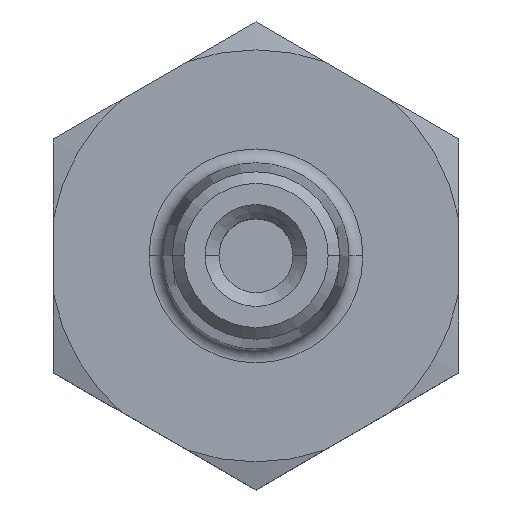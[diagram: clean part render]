
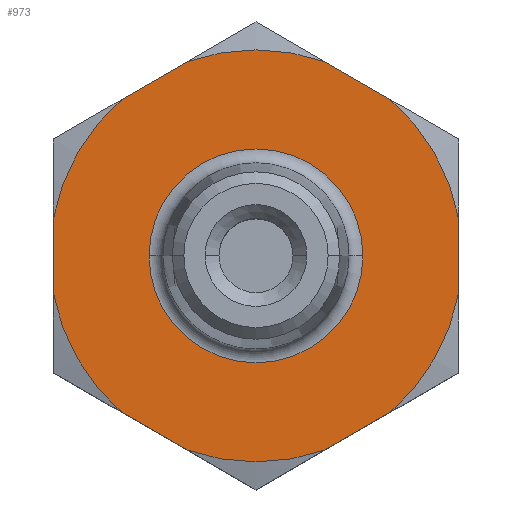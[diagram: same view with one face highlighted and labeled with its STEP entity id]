
A CAD part, top view. The second image highlights one B-rep face of the part: STEP entity #973.
In plain terms, the highlighted planar face has unit normal (0, 0, 1).
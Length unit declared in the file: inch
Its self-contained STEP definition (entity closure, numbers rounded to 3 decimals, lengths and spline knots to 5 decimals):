
#787 = CARTESIAN_POINT ( 'NONE',  ( -0.14829, 0.41956, 0. ) ) ;
#788 = DIRECTION ( 'NONE',  ( -1., 0., 0. ) ) ;
#789 = DIRECTION ( 'NONE',  ( 0., 0., -1. ) ) ;
#790 = CARTESIAN_POINT ( 'NONE',  ( 0., 0., 0. ) ) ;
#791 = AXIS2_PLACEMENT_3D ( 'NONE', #790, #789, #788 ) ;
#792 = CIRCLE ( 'NONE', #791, 0.445 ) ;
#793 = DIRECTION ( 'NONE',  ( -0.866, 0.5, 0. ) ) ;
#794 = VECTOR ( 'NONE', #793, 39.37008 ) ;
#795 = CARTESIAN_POINT ( 'NONE',  ( 0.4375, 0.25259, 0. ) ) ;
#796 = LINE ( 'NONE', #795, #794 ) ;
#801 = CARTESIAN_POINT ( 'NONE',  ( 0.14829, -0.41956, 0. ) ) ;
#802 = CARTESIAN_POINT ( 'NONE',  ( -0.14829, -0.41956, 0. ) ) ;
#803 = DIRECTION ( 'NONE',  ( 0.866, -0.5, 0. ) ) ;
#804 = VECTOR ( 'NONE', #803, 39.37008 ) ;
#805 = CARTESIAN_POINT ( 'NONE',  ( -0.4375, -0.25259, 0. ) ) ;
#806 = LINE ( 'NONE', #805, #804 ) ;
#807 = CARTESIAN_POINT ( 'NONE',  ( -0.28921, -0.33821, 0. ) ) ;
#808 = DIRECTION ( 'NONE',  ( -1., 0., 0. ) ) ;
#809 = DIRECTION ( 'NONE',  ( 0., 0., -1. ) ) ;
#810 = CARTESIAN_POINT ( 'NONE',  ( 0., 0., 0. ) ) ;
#811 = AXIS2_PLACEMENT_3D ( 'NONE', #810, #809, #808 ) ;
#812 = CIRCLE ( 'NONE', #811, 0.445 ) ;
#813 = CARTESIAN_POINT ( 'NONE',  ( -0.4375, -0.08136, 0. ) ) ;
#814 = DIRECTION ( 'NONE',  ( 0., -1., 0. ) ) ;
#815 = VECTOR ( 'NONE', #814, 39.37008 ) ;
#816 = CARTESIAN_POINT ( 'NONE',  ( -0.4375, 0.25259, 0. ) ) ;
#817 = LINE ( 'NONE', #816, #815 ) ;
#818 = CARTESIAN_POINT ( 'NONE',  ( -0.28921, 0.33821, 0. ) ) ;
#819 = DIRECTION ( 'NONE',  ( -1., 0., 0. ) ) ;
#820 = DIRECTION ( 'NONE',  ( 0., 0., -1. ) ) ;
#821 = CARTESIAN_POINT ( 'NONE',  ( 0., 0., 0. ) ) ;
#822 = AXIS2_PLACEMENT_3D ( 'NONE', #821, #820, #819 ) ;
#823 = CIRCLE ( 'NONE', #822, 0.445 ) ;
#824 = CARTESIAN_POINT ( 'NONE',  ( -0.4375, 0.08136, 0. ) ) ;
#829 = CARTESIAN_POINT ( 'NONE',  ( 0., 0., 0. ) ) ;
#831 = CARTESIAN_POINT ( 'NONE',  ( -0.23097, 0., 0. ) ) ;
#832 = CARTESIAN_POINT ( 'NONE',  ( 0.23097, 0., 0. ) ) ;
#833 = DIRECTION ( 'NONE',  ( -1., 0., 0. ) ) ;
#834 = DIRECTION ( 'NONE',  ( 0., 0., -1. ) ) ;
#835 = AXIS2_PLACEMENT_3D ( 'NONE', #829, #834, #833 ) ;
#836 = CIRCLE ( 'NONE', #835, 0.23097 ) ;
#837 = CARTESIAN_POINT ( 'NONE',  ( 0.14829, 0.41956, 0. ) ) ;
#838 = DIRECTION ( 'NONE',  ( 1., 0., 0. ) ) ;
#839 = DIRECTION ( 'NONE',  ( 0., 0., 1. ) ) ;
#840 = CARTESIAN_POINT ( 'NONE',  ( 0., 0., 0. ) ) ;
#841 = AXIS2_PLACEMENT_3D ( 'NONE', #840, #839, #838 ) ;
#842 = CIRCLE ( 'NONE', #841, 0.445 ) ;
#843 = CARTESIAN_POINT ( 'NONE',  ( 0.28921, 0.33821, 0. ) ) ;
#848 = CARTESIAN_POINT ( 'NONE',  ( 0.4375, 0.08136, 0. ) ) ;
#973 = ADVANCED_FACE ( 'NONE', ( #1814, #1813 ), #1811, .F. ) ;
#974 = ORIENTED_EDGE ( 'NONE', *, *, #975, .T. ) ;
#975 = EDGE_CURVE ( 'NONE', #1146, #1145, #1812, .T. ) ;
#976 = ORIENTED_EDGE ( 'NONE', *, *, #1144, .T. ) ;
#977 = EDGE_LOOP ( 'NONE', ( #1188, #1192, #1195, #1198, #1201, #979, #982, #985, #1183, #1186, #1204, #1207 ) ) ;
#978 = EDGE_CURVE ( 'NONE', #1202, #1200, #1875, .T. ) ;
#979 = ORIENTED_EDGE ( 'NONE', *, *, #980, .T. ) ;
#980 = EDGE_CURVE ( 'NONE', #1202, #981, #1870, .T. ) ;
#981 = VERTEX_POINT ( 'NONE', #1866 ) ;
#982 = ORIENTED_EDGE ( 'NONE', *, *, #983, .F. ) ;
#983 = EDGE_CURVE ( 'NONE', #984, #981, #1862, .T. ) ;
#984 = VERTEX_POINT ( 'NONE', #1857 ) ;
#985 = ORIENTED_EDGE ( 'NONE', *, *, #986, .T. ) ;
#986 = EDGE_CURVE ( 'NONE', #984, #1182, #1856, .T. ) ;
#1114 = EDGE_CURVE ( 'NONE', #1206, #1191, #2112, .T. ) ;
#1122 = EDGE_LOOP ( 'NONE', ( #974, #976 ) ) ;
#1144 = EDGE_CURVE ( 'NONE', #1145, #1146, #836, .T. ) ;
#1145 = VERTEX_POINT ( 'NONE', #832 ) ;
#1146 = VERTEX_POINT ( 'NONE', #831 ) ;
#1182 = VERTEX_POINT ( 'NONE', #848 ) ;
#1183 = ORIENTED_EDGE ( 'NONE', *, *, #1184, .T. ) ;
#1184 = EDGE_CURVE ( 'NONE', #1182, #1185, #842, .T. ) ;
#1185 = VERTEX_POINT ( 'NONE', #843 ) ;
#1186 = ORIENTED_EDGE ( 'NONE', *, *, #1203, .T. ) ;
#1187 = VERTEX_POINT ( 'NONE', #837 ) ;
#1188 = ORIENTED_EDGE ( 'NONE', *, *, #1189, .F. ) ;
#1189 = EDGE_CURVE ( 'NONE', #1190, #1191, #823, .T. ) ;
#1190 = VERTEX_POINT ( 'NONE', #824 ) ;
#1191 = VERTEX_POINT ( 'NONE', #818 ) ;
#1192 = ORIENTED_EDGE ( 'NONE', *, *, #1193, .T. ) ;
#1193 = EDGE_CURVE ( 'NONE', #1190, #1194, #817, .T. ) ;
#1194 = VERTEX_POINT ( 'NONE', #813 ) ;
#1195 = ORIENTED_EDGE ( 'NONE', *, *, #1196, .F. ) ;
#1196 = EDGE_CURVE ( 'NONE', #1197, #1194, #812, .T. ) ;
#1197 = VERTEX_POINT ( 'NONE', #807 ) ;
#1198 = ORIENTED_EDGE ( 'NONE', *, *, #1199, .T. ) ;
#1199 = EDGE_CURVE ( 'NONE', #1197, #1200, #806, .T. ) ;
#1200 = VERTEX_POINT ( 'NONE', #802 ) ;
#1201 = ORIENTED_EDGE ( 'NONE', *, *, #978, .F. ) ;
#1202 = VERTEX_POINT ( 'NONE', #801 ) ;
#1203 = EDGE_CURVE ( 'NONE', #1185, #1187, #796, .T. ) ;
#1204 = ORIENTED_EDGE ( 'NONE', *, *, #1205, .F. ) ;
#1205 = EDGE_CURVE ( 'NONE', #1206, #1187, #792, .T. ) ;
#1206 = VERTEX_POINT ( 'NONE', #787 ) ;
#1207 = ORIENTED_EDGE ( 'NONE', *, *, #1114, .T. ) ;
#1807 = DIRECTION ( 'NONE',  ( -1., 0., 0. ) ) ;
#1808 = DIRECTION ( 'NONE',  ( 0., 0., -1. ) ) ;
#1809 = CARTESIAN_POINT ( 'NONE',  ( 0.4375, 0.25259, 0. ) ) ;
#1810 = AXIS2_PLACEMENT_3D ( 'NONE', #1809, #1808, #1807 ) ;
#1811 = PLANE ( 'NONE',  #1810 ) ;
#1812 = CIRCLE ( 'NONE', #1879, 0.23097 ) ;
#1813 = FACE_OUTER_BOUND ( 'NONE', #977, .T. ) ;
#1814 = FACE_BOUND ( 'NONE', #1122, .T. ) ;
#1853 = DIRECTION ( 'NONE',  ( 0., 1., 0. ) ) ;
#1854 = VECTOR ( 'NONE', #1853, 39.37008 ) ;
#1855 = CARTESIAN_POINT ( 'NONE',  ( 0.4375, -0.25259, 0. ) ) ;
#1856 = LINE ( 'NONE', #1855, #1854 ) ;
#1857 = CARTESIAN_POINT ( 'NONE',  ( 0.4375, -0.08136, 0. ) ) ;
#1858 = DIRECTION ( 'NONE',  ( -1., 0., 0. ) ) ;
#1859 = DIRECTION ( 'NONE',  ( 0., 0., -1. ) ) ;
#1860 = CARTESIAN_POINT ( 'NONE',  ( 0., 0., 0. ) ) ;
#1861 = AXIS2_PLACEMENT_3D ( 'NONE', #1860, #1859, #1858 ) ;
#1862 = CIRCLE ( 'NONE', #1861, 0.445 ) ;
#1866 = CARTESIAN_POINT ( 'NONE',  ( 0.28921, -0.33821, 0. ) ) ;
#1867 = DIRECTION ( 'NONE',  ( 0.866, 0.5, 0. ) ) ;
#1868 = VECTOR ( 'NONE', #1867, 39.37008 ) ;
#1869 = CARTESIAN_POINT ( 'NONE',  ( 0., -0.50518, 0. ) ) ;
#1870 = LINE ( 'NONE', #1869, #1868 ) ;
#1871 = DIRECTION ( 'NONE',  ( -1., 0., 0. ) ) ;
#1872 = DIRECTION ( 'NONE',  ( 0., 0., -1. ) ) ;
#1873 = CARTESIAN_POINT ( 'NONE',  ( 0., 0., 0. ) ) ;
#1874 = AXIS2_PLACEMENT_3D ( 'NONE', #1873, #1872, #1871 ) ;
#1875 = CIRCLE ( 'NONE', #1874, 0.445 ) ;
#1876 = DIRECTION ( 'NONE',  ( -1., 0., 0. ) ) ;
#1877 = DIRECTION ( 'NONE',  ( 0., 0., -1. ) ) ;
#1878 = CARTESIAN_POINT ( 'NONE',  ( 0., 0., 0. ) ) ;
#1879 = AXIS2_PLACEMENT_3D ( 'NONE', #1878, #1877, #1876 ) ;
#2109 = DIRECTION ( 'NONE',  ( -0.866, -0.5, 0. ) ) ;
#2110 = VECTOR ( 'NONE', #2109, 39.37008 ) ;
#2111 = CARTESIAN_POINT ( 'NONE',  ( 0., 0.50518, 0. ) ) ;
#2112 = LINE ( 'NONE', #2111, #2110 ) ;
